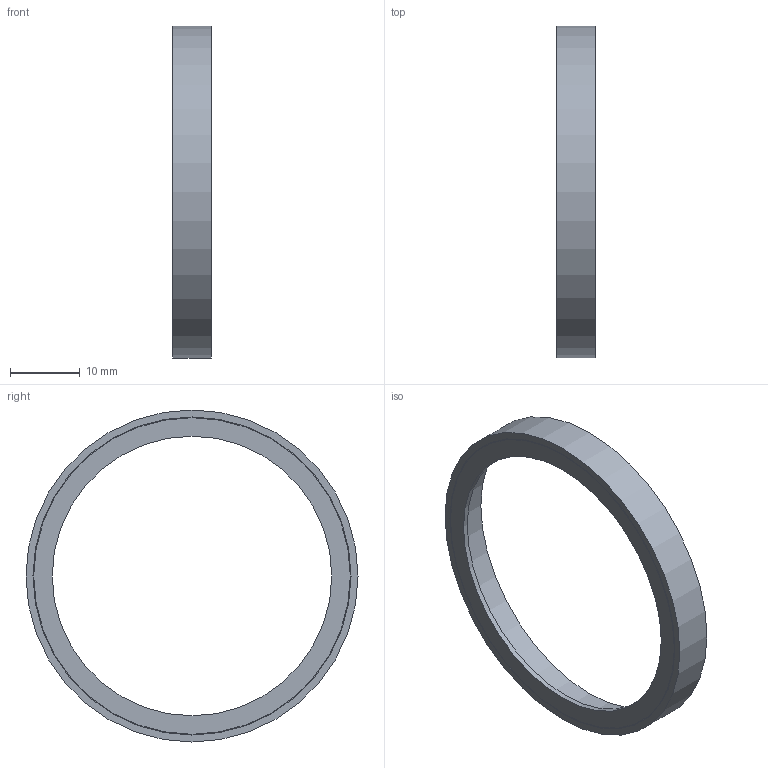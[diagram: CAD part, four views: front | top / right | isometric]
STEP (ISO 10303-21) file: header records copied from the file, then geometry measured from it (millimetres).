
FILE_DESCRIPTION(/* description */ ('STEP AP203','CAx-IF Rec.Pracs.---Representation and Presentation of Product Manufacturing Information (PMI)---4.0---2014-10-13'),/* implementation_level */ '2;1');
FILE_NAME(/* name */ 'C:\DESKTOP\홈페이지용 엔코더 3D 데이타 및 사진관련 자료\Bearingless type\Radial Type\RH47-40-32-31-1.28-HN-AL\RH47-40-32-31-1.28-HN-AL.stp',/* time_stamp */ '2023-06-05T21:15:54+08:00',/* author */ ('hnckhn'),/* organization */ (''),/* preprocessor_version */ 'ST-DEVELOPER v18.1',/* originating_system */ 'Autodesk Inventor 2021',/* authorisation */ '');
FILE_SCHEMA (('AP242_MANAGED_MODEL_BASED_3D_ENGINEERING_MIM_LF { 1 0 10303 442 1 1 4 }'));
Length unit declared in the file: millimetre
Products named in the file (1): RH47-40-32-31-1.28-HN-AL
Bounding box: 5.5 x 47.5 x 47.5 mm (x, y, z)
Volume: 1578.5 mm3; surface area: 4151.5 mm2
Topology: 2 solids, 2 shells, 14 faces, 37 edges, 28 vertices
Faces by surface type: cylinder 5, plane 5, cone 2, torus 2
Full cylindrical faces by diameter (mm): 40 x1, 44 x1, 45.49 x1, 45.5 x1, 47.5 x1
Entity records: 623 total; most frequent: DIRECTION 123, CARTESIAN_POINT 97, ORIENTED_EDGE 74, AXIS2_PLACEMENT_3D 58, EDGE_CURVE 37, CIRCLE 30, VERTEX_POINT 28, EDGE_LOOP 19
